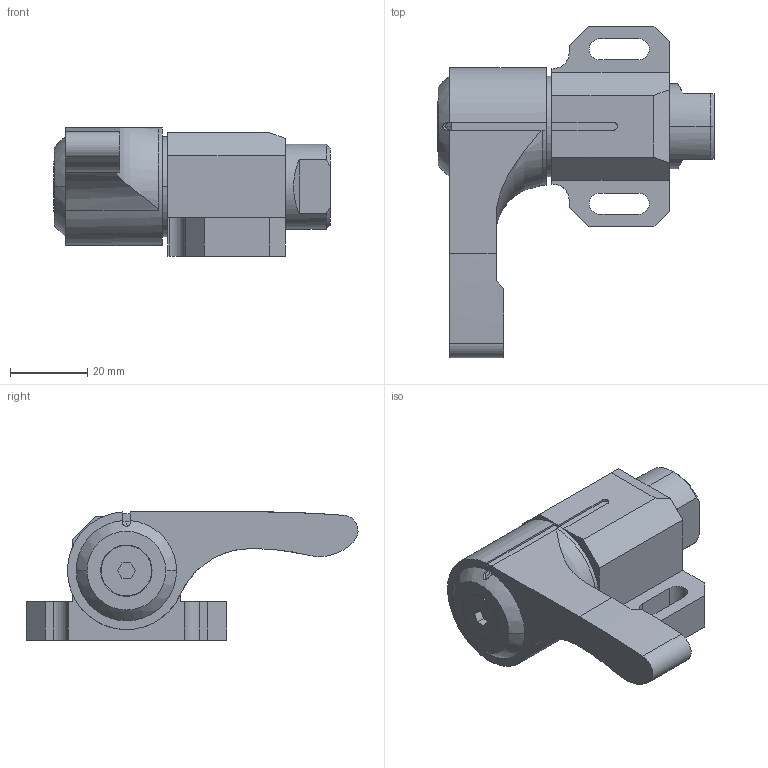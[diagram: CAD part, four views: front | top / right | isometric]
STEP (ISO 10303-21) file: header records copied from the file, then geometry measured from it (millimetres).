
FILE_DESCRIPTION (( 'STEP AP203' ), '1' );
FILE_NAME ('QLPUW32-080.step', '2024-11-06T05:50:04', ( '' ), ( '' ), 'SwSTEP 2.0', 'SolidWorks 2023', '' );
FILE_SCHEMA (( 'CONFIG_CONTROL_DESIGN' ));
Length unit declared in the file: millimetre
Products named in the file (4): QLPUW32-080_03; QLPUW32-080_02; QLPUW32-080; QLPUW32-080_01
Assembly tree (3 placements, depth 2):
  QLPUW32-080
    QLPUW32-080_01
    QLPUW32-080_02
    QLPUW32-080_03
Bounding box: 71.55 x 86 x 33.25 mm (x, y, z)
Volume: 55120.2 mm3; surface area: 26525.3 mm2
Topology: 3 solids, 3 shells, 134 faces, 326 edges, 214 vertices
Faces by surface type: plane 67, cylinder 53, cone 9, sphere 4, torus 1
Entity records: 4472 total; most frequent: CARTESIAN_POINT 801, DIRECTION 720, ORIENTED_EDGE 652, EDGE_CURVE 326, AXIS2_PLACEMENT_3D 269, VERTEX_POINT 214, LINE 182, VECTOR 182
